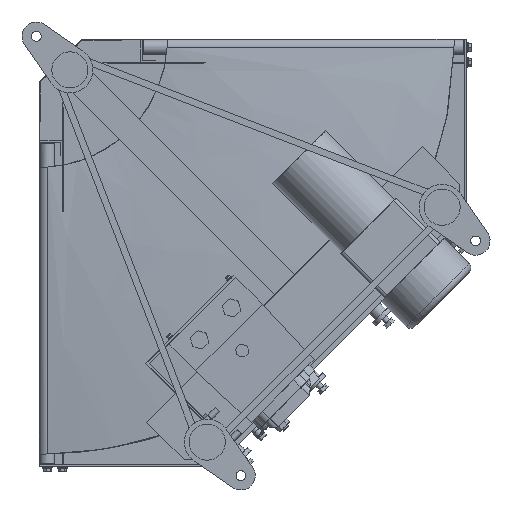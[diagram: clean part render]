
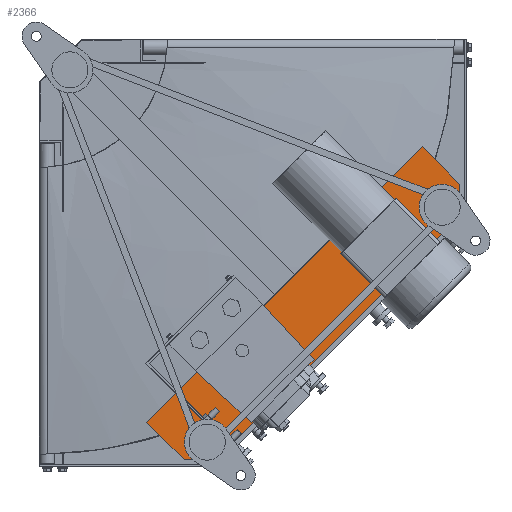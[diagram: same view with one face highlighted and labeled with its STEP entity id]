
A CAD part, front view. The second image highlights one B-rep face of the part: STEP entity #2366.
In plain terms, the highlighted planar face has unit normal (0, -1, 0).
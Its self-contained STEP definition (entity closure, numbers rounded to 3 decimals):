
#380 = CARTESIAN_POINT ( 'NONE',  ( 191.272, -167.5, -556.847 ) ) ;
#2360 = DIRECTION ( 'NONE',  ( 0., 0., 1. ) ) ;
#2366 = ADVANCED_FACE ( 'NONE', ( #45711 ), #43763, .F. ) ;
#2564 = VECTOR ( 'NONE', #47542, 1000. ) ;
#5026 = VECTOR ( 'NONE', #37997, 1000. ) ;
#5642 = EDGE_CURVE ( 'NONE', #24490, #34342, #46278, .T. ) ;
#6310 = EDGE_CURVE ( 'NONE', #30727, #24490, #18046, .T. ) ;
#7966 = DIRECTION ( 'NONE',  ( 0.707, 0., -0.707 ) ) ;
#8170 = ORIENTED_EDGE ( 'NONE', *, *, #5642, .F. ) ;
#9157 = DIRECTION ( 'NONE',  ( -0.707, 0., 0.707 ) ) ;
#9654 = ORIENTED_EDGE ( 'NONE', *, *, #39349, .F. ) ;
#10505 = AXIS2_PLACEMENT_3D ( 'NONE', #36147, #36468, #2360 ) ;
#10777 = LINE ( 'NONE', #31570, #12468 ) ;
#12468 = VECTOR ( 'NONE', #9157, 1000. ) ;
#12895 = CARTESIAN_POINT ( 'NONE',  ( 141.775, -167.5, -507.349 ) ) ;
#12934 = CARTESIAN_POINT ( 'NONE',  ( 507.349, -167.5, -141.775 ) ) ;
#13371 = DIRECTION ( 'NONE',  ( -0.707, 0., -0.707 ) ) ;
#14019 = DIRECTION ( 'NONE',  ( 0., 0., -1. ) ) ;
#14092 = EDGE_LOOP ( 'NONE', ( #9654, #39620, #37106, #39597, #8170, #16681 ) ) ;
#15409 = VERTEX_POINT ( 'NONE', #12934 ) ;
#15590 = CARTESIAN_POINT ( 'NONE',  ( 191.272, -167.5, -556.847 ) ) ;
#16178 = LINE ( 'NONE', #47763, #43913 ) ;
#16681 = ORIENTED_EDGE ( 'NONE', *, *, #6310, .F. ) ;
#17697 = VERTEX_POINT ( 'NONE', #12895 ) ;
#18046 = LINE ( 'NONE', #46626, #38662 ) ;
#20812 = LINE ( 'NONE', #39685, #2564 ) ;
#23579 = CARTESIAN_POINT ( 'NONE',  ( 507.349, -167.5, -141.775 ) ) ;
#24490 = VERTEX_POINT ( 'NONE', #36471 ) ;
#25213 = CARTESIAN_POINT ( 'NONE',  ( 556.847, -167.5, -191.272 ) ) ;
#26963 = LINE ( 'NONE', #23579, #41732 ) ;
#28634 = EDGE_CURVE ( 'NONE', #15409, #31915, #26963, .T. ) ;
#30727 = VERTEX_POINT ( 'NONE', #32095 ) ;
#31570 = CARTESIAN_POINT ( 'NONE',  ( 141.775, -167.5, -507.349 ) ) ;
#31915 = VERTEX_POINT ( 'NONE', #25213 ) ;
#32095 = CARTESIAN_POINT ( 'NONE',  ( 556.847, -167.5, -233.699 ) ) ;
#34342 = VERTEX_POINT ( 'NONE', #15590 ) ;
#36147 = CARTESIAN_POINT ( 'NONE',  ( 0., -167.5, 0. ) ) ;
#36468 = DIRECTION ( 'NONE',  ( 0., 1., 0. ) ) ;
#36471 = CARTESIAN_POINT ( 'NONE',  ( 233.699, -167.5, -556.847 ) ) ;
#37106 = ORIENTED_EDGE ( 'NONE', *, *, #39929, .F. ) ;
#37997 = DIRECTION ( 'NONE',  ( -1., 0., 0. ) ) ;
#38662 = VECTOR ( 'NONE', #13371, 1000. ) ;
#39349 = EDGE_CURVE ( 'NONE', #31915, #30727, #16178, .T. ) ;
#39597 = ORIENTED_EDGE ( 'NONE', *, *, #41501, .F. ) ;
#39620 = ORIENTED_EDGE ( 'NONE', *, *, #28634, .F. ) ;
#39685 = CARTESIAN_POINT ( 'NONE',  ( 141.775, -167.5, -507.349 ) ) ;
#39929 = EDGE_CURVE ( 'NONE', #17697, #15409, #20812, .T. ) ;
#41501 = EDGE_CURVE ( 'NONE', #34342, #17697, #10777, .T. ) ;
#41732 = VECTOR ( 'NONE', #7966, 1000. ) ;
#43763 = PLANE ( 'NONE',  #10505 ) ;
#43913 = VECTOR ( 'NONE', #14019, 1000. ) ;
#45711 = FACE_OUTER_BOUND ( 'NONE', #14092, .T. ) ;
#46278 = LINE ( 'NONE', #380, #5026 ) ;
#46626 = CARTESIAN_POINT ( 'NONE',  ( 233.699, -167.5, -556.847 ) ) ;
#47542 = DIRECTION ( 'NONE',  ( 0.707, 0., 0.707 ) ) ;
#47763 = CARTESIAN_POINT ( 'NONE',  ( 556.847, -167.5, -233.699 ) ) ;
